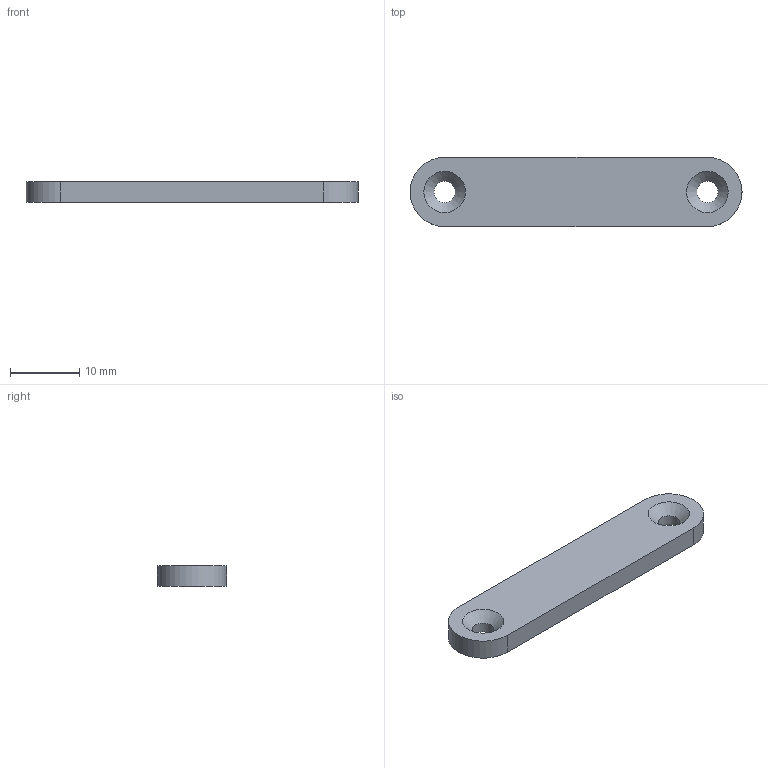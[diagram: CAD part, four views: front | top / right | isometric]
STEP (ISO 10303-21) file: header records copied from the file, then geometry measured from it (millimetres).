
FILE_DESCRIPTION(/* description */ (''),/* implementation_level */ '2;1');
FILE_NAME(/* name */ 'D:\IN 制图\设备\手动剥线机带侧刀4.02\工程图\后标尺连接压板.stp',/* time_stamp */ '2026-06-21T18:51:01+08:00',/* author */ ('ROG'),/* organization */ (''),/* preprocessor_version */ 'ST-DEVELOPER v19',/* originating_system */ 'Autodesk Inventor 2023',/* authorisation */ '');
FILE_SCHEMA (('AUTOMOTIVE_DESIGN { 1 0 10303 214 3 1 1 }'));
Length unit declared in the file: millimetre
Products named in the file (1): 后标尺连接压板
Bounding box: 48 x 10 x 3 mm (x, y, z)
Volume: 1303.5 mm3; surface area: 1256.5 mm2
Topology: 1 solids, 1 shells, 10 faces, 22 edges, 14 vertices
Faces by surface type: cylinder 4, plane 4, cone 2
Full cylindrical faces by diameter (mm): 3.1 x2
Entity records: 350 total; most frequent: DIRECTION 54, CARTESIAN_POINT 47, ORIENTED_EDGE 44, EDGE_CURVE 22, AXIS2_PLACEMENT_3D 21, EDGE_LOOP 14, VERTEX_POINT 14, LINE 12
